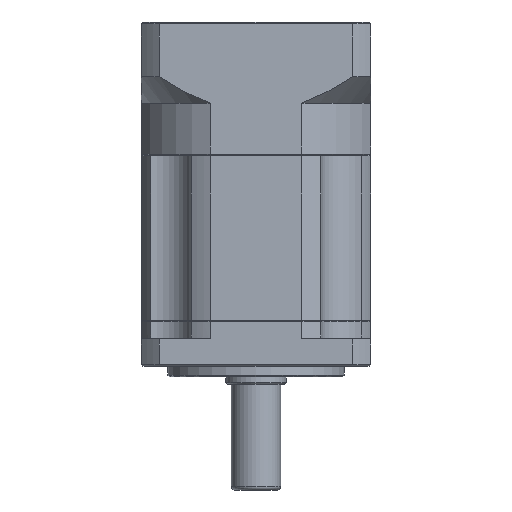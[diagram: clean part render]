
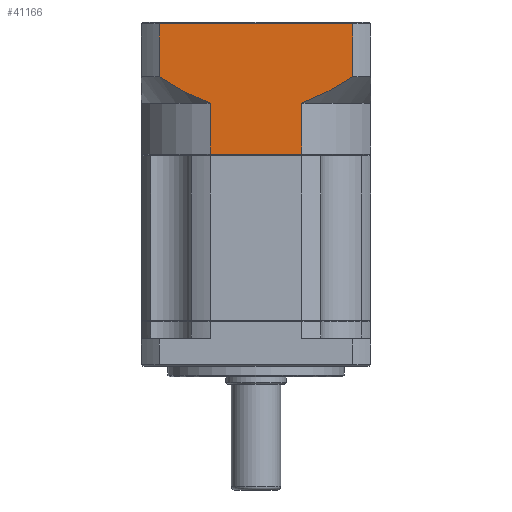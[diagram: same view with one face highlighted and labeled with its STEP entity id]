
A CAD part, front view. The second image highlights one B-rep face of the part: STEP entity #41166.
In plain terms, the highlighted planar face has unit normal (0, -1, 0).
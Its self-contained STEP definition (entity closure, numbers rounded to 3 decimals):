
#1910 = VERTEX_POINT ( 'NONE', #96910 ) ;
#3828 = LINE ( 'NONE', #105894, #88733 ) ;
#6170 = CARTESIAN_POINT ( 'NONE',  ( 37.642, -21.741, 138.15 ) ) ;
#7059 = CARTESIAN_POINT ( 'NONE',  ( -14.861, -21.741, 136.688 ) ) ;
#7489 = DIRECTION ( 'NONE',  ( -1., 0., 0. ) ) ;
#7796 = FACE_OUTER_BOUND ( 'NONE', #44379, .T. ) ;
#8243 = ORIENTED_EDGE ( 'NONE', *, *, #17168, .T. ) ;
#8261 = DIRECTION ( 'NONE',  ( 0., 0., -1. ) ) ;
#9478 = VECTOR ( 'NONE', #29503, 1000. ) ;
#12256 = ORIENTED_EDGE ( 'NONE', *, *, #78914, .F. ) ;
#14922 = DIRECTION ( 'NONE',  ( 0., 0., -1. ) ) ;
#17168 = EDGE_CURVE ( 'NONE', #97427, #20354, #94294, .T. ) ;
#17413 = CARTESIAN_POINT ( 'NONE',  ( -17.13, -21.741, 153.15 ) ) ;
#20354 = VERTEX_POINT ( 'NONE', #70674 ) ;
#23066 = VERTEX_POINT ( 'NONE', #86055 ) ;
#23266 = CARTESIAN_POINT ( 'NONE',  ( -2.735, -21.741, 130.65 ) ) ;
#25385 = ORIENTED_EDGE ( 'NONE', *, *, #49829, .T. ) ;
#26681 = PLANE ( 'NONE',  #43841 ) ;
#27220 = CARTESIAN_POINT ( 'NONE',  ( -17.13, -21.741, 138.15 ) ) ;
#28334 = LINE ( 'NONE', #96818, #88786 ) ;
#28376 = CARTESIAN_POINT ( 'NONE',  ( 33.016, -21.741, 135.316 ) ) ;
#28886 = VERTEX_POINT ( 'NONE', #6170 ) ;
#29503 = DIRECTION ( 'NONE',  ( 1., 0., 0. ) ) ;
#29984 = EDGE_CURVE ( 'NONE', #32011, #56944, #75446, .T. ) ;
#31743 = VECTOR ( 'NONE', #52531, 1000. ) ;
#32011 = VERTEX_POINT ( 'NONE', #27220 ) ;
#32341 = EDGE_CURVE ( 'NONE', #23066, #28886, #28334, .T. ) ;
#34799 = LINE ( 'NONE', #47858, #54105 ) ;
#35352 = DIRECTION ( 'NONE',  ( 0., 1., 0. ) ) ;
#36703 = CARTESIAN_POINT ( 'NONE',  ( 28.237, -21.741, 132.737 ) ) ;
#36946 = EDGE_CURVE ( 'NONE', #52230, #20354, #79915, .T. ) ;
#39847 = CARTESIAN_POINT ( 'NONE',  ( -5.277, -21.741, 131.666 ) ) ;
#41003 = CARTESIAN_POINT ( 'NONE',  ( 23.246, -21.741, 130.65 ) ) ;
#41166 = ADVANCED_FACE ( 'NONE', ( #7796 ), #26681, .F. ) ;
#43841 = AXIS2_PLACEMENT_3D ( 'NONE', #84536, #35352, #92764 ) ;
#44258 = CARTESIAN_POINT ( 'NONE',  ( -17.13, -21.741, 135.65 ) ) ;
#44379 = EDGE_LOOP ( 'NONE', ( #94322, #25385, #94362, #89945, #12256, #8243, #55948, #78257 ) ) ;
#44963 = CARTESIAN_POINT ( 'NONE',  ( 23.246, -21.741, 130.65 ) ) ;
#47858 = CARTESIAN_POINT ( 'NONE',  ( -2.735, -21.741, 130.65 ) ) ;
#48121 = CARTESIAN_POINT ( 'NONE',  ( -7.754, -21.741, 132.79 ) ) ;
#49829 = EDGE_CURVE ( 'NONE', #23066, #56944, #3828, .T. ) ;
#52230 = VERTEX_POINT ( 'NONE', #82557 ) ;
#52531 = DIRECTION ( 'NONE',  ( 0., 0., 1. ) ) ;
#54105 = VECTOR ( 'NONE', #88407, 1000. ) ;
#55948 = ORIENTED_EDGE ( 'NONE', *, *, #36946, .F. ) ;
#56379 = CARTESIAN_POINT ( 'NONE',  ( -12.547, -21.741, 135.3 ) ) ;
#56944 = VERTEX_POINT ( 'NONE', #17413 ) ;
#58548 = EDGE_CURVE ( 'NONE', #1910, #32011, #73870, .T. ) ;
#58982 = CARTESIAN_POINT ( 'NONE',  ( -2.735, -21.741, 116.239 ) ) ;
#59965 = EDGE_CURVE ( 'NONE', #28886, #52230, #82826, .T. ) ;
#61148 = CARTESIAN_POINT ( 'NONE',  ( 37.642, -21.741, 138.15 ) ) ;
#64628 = CARTESIAN_POINT ( 'NONE',  ( -17.13, -21.741, 138.15 ) ) ;
#69038 = CARTESIAN_POINT ( 'NONE',  ( 36.504, -21.741, 137.416 ) ) ;
#70674 = CARTESIAN_POINT ( 'NONE',  ( 23.246, -21.741, 116.239 ) ) ;
#73870 = B_SPLINE_CURVE_WITH_KNOTS ( 'NONE', 3,
 ( #23266, #80771, #89016, #39847, #97219, #48121, #105469, #56379, #7059, #64628 ),
 .UNSPECIFIED., .F., .F.,
 ( 4, 2, 2, 2, 4 ),
 ( 0.101, 0.104, 0.106, 0.11, 0.118 ),
 .UNSPECIFIED. ) ;
#75446 = LINE ( 'NONE', #44258, #31743 ) ;
#77613 = CARTESIAN_POINT ( 'NONE',  ( 35.352, -21.741, 136.701 ) ) ;
#78257 = ORIENTED_EDGE ( 'NONE', *, *, #59965, .F. ) ;
#78914 = EDGE_CURVE ( 'NONE', #97427, #1910, #34799, .T. ) ;
#79915 = LINE ( 'NONE', #41003, #101698 ) ;
#80771 = CARTESIAN_POINT ( 'NONE',  ( -3.377, -21.741, 130.889 ) ) ;
#82557 = CARTESIAN_POINT ( 'NONE',  ( 23.246, -21.741, 130.65 ) ) ;
#82826 = B_SPLINE_CURVE_WITH_KNOTS ( 'NONE', 3,
 ( #61148, #69038, #77613, #28376, #85871, #36703, #94102, #44963 ),
 .UNSPECIFIED., .F., .F.,
 ( 4, 2, 2, 4 ),
 ( 0.059, 0.063, 0.067, 0.075 ),
 .UNSPECIFIED. ) ;
#84536 = CARTESIAN_POINT ( 'NONE',  ( 42.756, -21.741, 153.65 ) ) ;
#85871 = CARTESIAN_POINT ( 'NONE',  ( 31.831, -21.741, 134.646 ) ) ;
#86055 = CARTESIAN_POINT ( 'NONE',  ( 37.642, -21.741, 153.15 ) ) ;
#86987 = CARTESIAN_POINT ( 'NONE',  ( 42.756, -21.741, 116.239 ) ) ;
#88407 = DIRECTION ( 'NONE',  ( 0., 0., 1. ) ) ;
#88733 = VECTOR ( 'NONE', #7489, 1000. ) ;
#88786 = VECTOR ( 'NONE', #14922, 1000. ) ;
#89016 = CARTESIAN_POINT ( 'NONE',  ( -4.016, -21.741, 131.141 ) ) ;
#89945 = ORIENTED_EDGE ( 'NONE', *, *, #58548, .F. ) ;
#92764 = DIRECTION ( 'NONE',  ( -1., 0., 0. ) ) ;
#94102 = CARTESIAN_POINT ( 'NONE',  ( 25.785, -21.741, 131.592 ) ) ;
#94294 = LINE ( 'NONE', #86987, #9478 ) ;
#94322 = ORIENTED_EDGE ( 'NONE', *, *, #32341, .F. ) ;
#94362 = ORIENTED_EDGE ( 'NONE', *, *, #29984, .F. ) ;
#96818 = CARTESIAN_POINT ( 'NONE',  ( 37.642, -21.741, 135.65 ) ) ;
#96910 = CARTESIAN_POINT ( 'NONE',  ( -2.735, -21.741, 130.65 ) ) ;
#97219 = CARTESIAN_POINT ( 'NONE',  ( -5.9, -21.741, 131.94 ) ) ;
#97427 = VERTEX_POINT ( 'NONE', #58982 ) ;
#101698 = VECTOR ( 'NONE', #8261, 1000. ) ;
#105469 = CARTESIAN_POINT ( 'NONE',  ( -8.966, -21.741, 133.395 ) ) ;
#105894 = CARTESIAN_POINT ( 'NONE',  ( -17.13, -21.741, 153.15 ) ) ;
